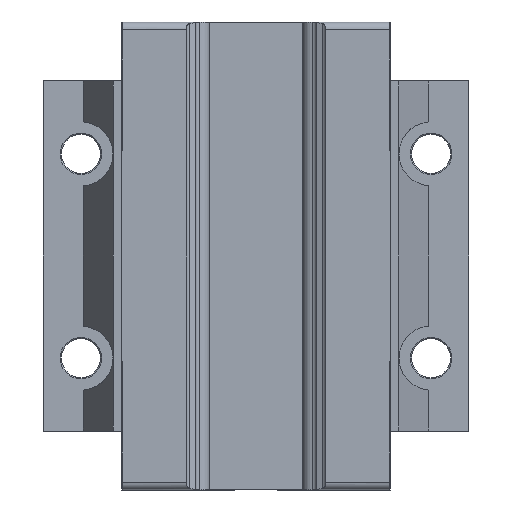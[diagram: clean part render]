
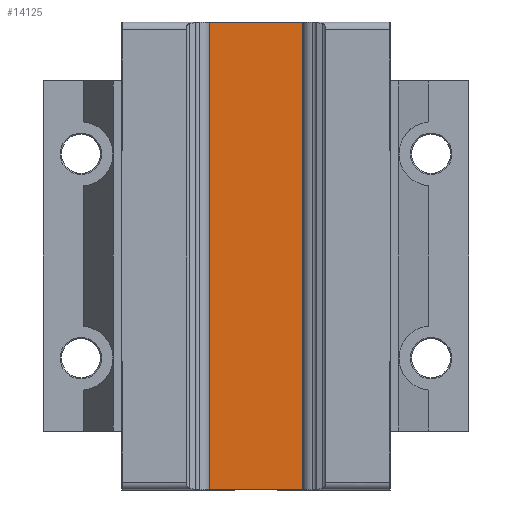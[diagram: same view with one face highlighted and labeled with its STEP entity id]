
A CAD part, front view. The second image highlights one B-rep face of the part: STEP entity #14125.
In plain terms, the highlighted planar face has unit normal (0, -1, 0).
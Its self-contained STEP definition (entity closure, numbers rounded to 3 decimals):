
#2441 = VERTEX_POINT ( 'NONE', #7510 ) ;
#2453 = EDGE_CURVE ( 'NONE', #2441, #2454, #7548, .T. ) ;
#2454 = VERTEX_POINT ( 'NONE', #7544 ) ;
#7510 = CARTESIAN_POINT ( 'NONE',  ( 8.834, 9.2, -10.05 ) ) ;
#7544 = CARTESIAN_POINT ( 'NONE',  ( -8.834, 9.2, -10.05 ) ) ;
#7545 = VECTOR ( 'NONE', #7546, 1000. ) ;
#7546 = DIRECTION ( 'NONE',  ( -1., 0., 0. ) ) ;
#7547 = CARTESIAN_POINT ( 'NONE',  ( -9.2, 9.2, -10.05 ) ) ;
#7548 = LINE ( 'NONE', #7547, #7545 ) ;
#9121 = CARTESIAN_POINT ( 'NONE',  ( 8.834, 9.2, 70.05 ) ) ;
#9123 = CARTESIAN_POINT ( 'NONE',  ( -8.834, 9.2, 70.05 ) ) ;
#9129 = DIRECTION ( 'NONE',  ( 1., 0., 0. ) ) ;
#9130 = VECTOR ( 'NONE', #9129, 1000. ) ;
#9131 = CARTESIAN_POINT ( 'NONE',  ( -9.2, 9.2, 70.05 ) ) ;
#9132 = LINE ( 'NONE', #9131, #9130 ) ;
#12012 = VECTOR ( 'NONE', #12013, 1000. ) ;
#12013 = DIRECTION ( 'NONE',  ( 0., 0., 1. ) ) ;
#12014 = CARTESIAN_POINT ( 'NONE',  ( 8.834, 9.2, -10.1 ) ) ;
#12015 = LINE ( 'NONE', #12014, #12012 ) ;
#12042 = FACE_OUTER_BOUND ( 'NONE', #14169, .T. ) ;
#12079 = PLANE ( 'NONE',  #12104 ) ;
#12080 = DIRECTION ( 'NONE',  ( 0., 0., 1. ) ) ;
#12081 = VECTOR ( 'NONE', #12080, 1000. ) ;
#12082 = CARTESIAN_POINT ( 'NONE',  ( -8.834, 9.2, -10.1 ) ) ;
#12083 = LINE ( 'NONE', #12082, #12081 ) ;
#12101 = DIRECTION ( 'NONE',  ( 0., 0., 1. ) ) ;
#12102 = DIRECTION ( 'NONE',  ( 0., 1., 0. ) ) ;
#12103 = CARTESIAN_POINT ( 'NONE',  ( 8.834, 9.2, -10.1 ) ) ;
#12104 = AXIS2_PLACEMENT_3D ( 'NONE', #12103, #12102, #12101 ) ;
#13600 = EDGE_CURVE ( 'NONE', #13604, #13606, #9132, .T. ) ;
#13604 = VERTEX_POINT ( 'NONE', #9123 ) ;
#13606 = VERTEX_POINT ( 'NONE', #9121 ) ;
#14098 = ORIENTED_EDGE ( 'NONE', *, *, #13600, .F. ) ;
#14099 = ORIENTED_EDGE ( 'NONE', *, *, #14120, .F. ) ;
#14114 = ORIENTED_EDGE ( 'NONE', *, *, #2453, .F. ) ;
#14120 = EDGE_CURVE ( 'NONE', #2454, #13604, #12083, .T. ) ;
#14125 = ADVANCED_FACE ( 'NONE', ( #12042 ), #12079, .F. ) ;
#14130 = ORIENTED_EDGE ( 'NONE', *, *, #14131, .T. ) ;
#14131 = EDGE_CURVE ( 'NONE', #2441, #13606, #12015, .T. ) ;
#14169 = EDGE_LOOP ( 'NONE', ( #14130, #14098, #14099, #14114 ) ) ;
